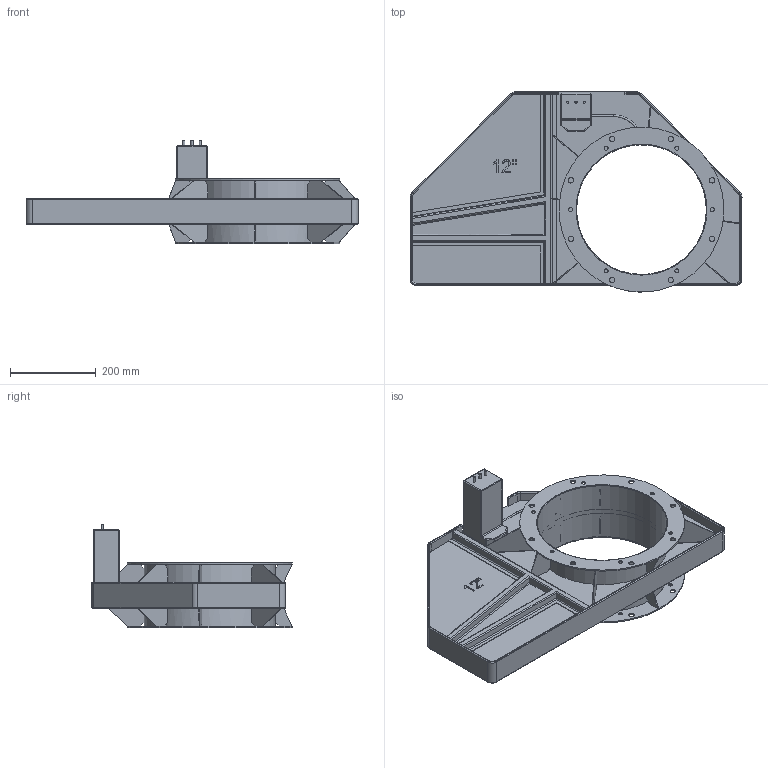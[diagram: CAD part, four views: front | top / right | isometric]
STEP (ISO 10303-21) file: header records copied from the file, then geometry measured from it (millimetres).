
FILE_DESCRIPTION( ('This file contains a STEP AP42 implementation' ,'as created by ZW3D STEP Interface translator.') ,'2;1' );
FILE_NAME( '3D Model-HO212 Body with drive.stp' ,'20 7 9. 64721', (''), ('ZWCAD Software Co.'), 'Version 1.0', 'ZW3D to STEP translator', '' );
FILE_SCHEMA(('AUTOMOTIVE_DESIGN'));
Length unit declared in the file: millimetre
Products named in the file (1): 0
Bounding box: 773 x 466.06 x 240.3 mm (x, y, z)
Volume: 5197062 mm3; surface area: 1365619.1 mm2
Topology: 20 solids, 20 shells, 969 faces, 2574 edges, 1767 vertices
Faces by surface type: bspline 969
Entity records: 30879 total; most frequent: CARTESIAN_POINT 14662, ORIENTED_EDGE 5012, EDGE_CURVE 2506, B_SPLINE_CURVE_WITH_KNOTS 2062, VERTEX_POINT 1634, EDGE_LOOP 1088, FACE_OUTER_BOUND 969, ADVANCED_FACE 969
